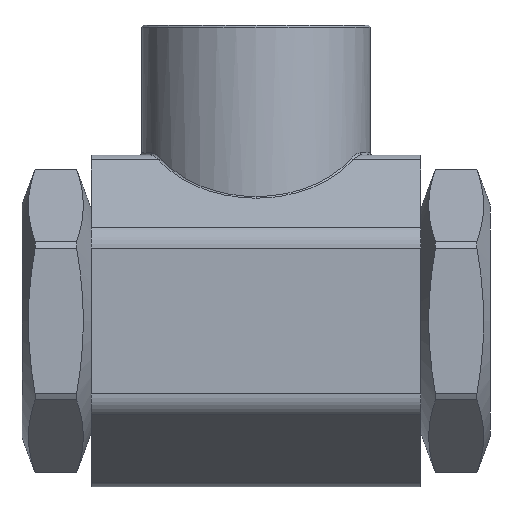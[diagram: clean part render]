
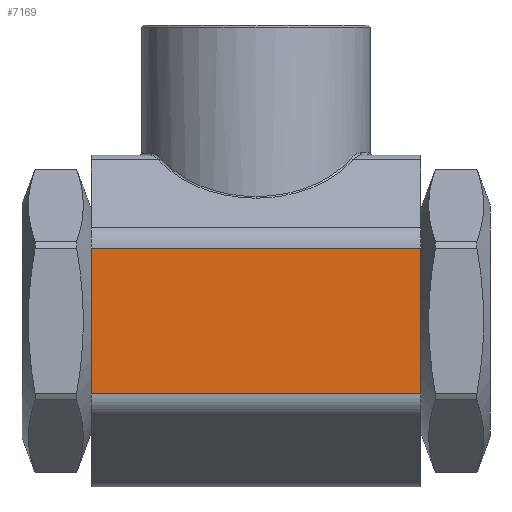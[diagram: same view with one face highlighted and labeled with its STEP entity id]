
A CAD part, front view. The second image highlights one B-rep face of the part: STEP entity #7169.
In plain terms, the highlighted planar face has unit normal (0, -1, 0).
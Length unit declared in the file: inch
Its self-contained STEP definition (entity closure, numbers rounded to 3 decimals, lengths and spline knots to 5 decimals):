
#180 = LINE ( 'NONE', #8532, #11236 ) ;
#741 = DIRECTION ( 'NONE',  ( 0., 0., -1. ) ) ;
#754 = EDGE_LOOP ( 'NONE', ( #2993, #1060, #9261, #11628 ) ) ;
#1060 = ORIENTED_EDGE ( 'NONE', *, *, #13240, .F. ) ;
#1764 = LINE ( 'NONE', #5902, #1801 ) ;
#1801 = VECTOR ( 'NONE', #741, 39.37008 ) ;
#1829 = CARTESIAN_POINT ( 'NONE',  ( 1.62402, -1.63386, 0.71728 ) ) ;
#2016 = EDGE_CURVE ( 'NONE', #3233, #13124, #180, .T. ) ;
#2993 = ORIENTED_EDGE ( 'NONE', *, *, #2016, .T. ) ;
#3207 = CARTESIAN_POINT ( 'NONE',  ( -1.62402, -1.63386, 0.71728 ) ) ;
#3233 = VERTEX_POINT ( 'NONE', #3207 ) ;
#3250 = LINE ( 'NONE', #3387, #12901 ) ;
#3387 = CARTESIAN_POINT ( 'NONE',  ( 1.62402, -1.63386, 0.71728 ) ) ;
#3594 = VECTOR ( 'NONE', #5628, 39.37008 ) ;
#4944 = EDGE_CURVE ( 'NONE', #12356, #9702, #1764, .T. ) ;
#5109 = DIRECTION ( 'NONE',  ( 0., 1., 0. ) ) ;
#5628 = DIRECTION ( 'NONE',  ( -1., 0., 0. ) ) ;
#5902 = CARTESIAN_POINT ( 'NONE',  ( 1.62402, -1.63386, -0.71728 ) ) ;
#7169 = ADVANCED_FACE ( 'NONE', ( #11345 ), #9055, .F. ) ;
#7388 = DIRECTION ( 'NONE',  ( -1., 0., 0. ) ) ;
#8462 = DIRECTION ( 'NONE',  ( 0., 0., -1. ) ) ;
#8532 = CARTESIAN_POINT ( 'NONE',  ( -1.62402, -1.63386, -0.71728 ) ) ;
#9020 = AXIS2_PLACEMENT_3D ( 'NONE', #13191, #5109, #9186 ) ;
#9055 = PLANE ( 'NONE',  #9020 ) ;
#9186 = DIRECTION ( 'NONE',  ( 0., 0., 1. ) ) ;
#9261 = ORIENTED_EDGE ( 'NONE', *, *, #4944, .F. ) ;
#9702 = VERTEX_POINT ( 'NONE', #12346 ) ;
#10322 = CARTESIAN_POINT ( 'NONE',  ( -1.62402, -1.63386, -0.71728 ) ) ;
#10597 = LINE ( 'NONE', #12628, #3594 ) ;
#11041 = EDGE_CURVE ( 'NONE', #12356, #3233, #3250, .T. ) ;
#11236 = VECTOR ( 'NONE', #8462, 39.37008 ) ;
#11345 = FACE_OUTER_BOUND ( 'NONE', #754, .T. ) ;
#11628 = ORIENTED_EDGE ( 'NONE', *, *, #11041, .T. ) ;
#12346 = CARTESIAN_POINT ( 'NONE',  ( 1.62402, -1.63386, -0.71728 ) ) ;
#12356 = VERTEX_POINT ( 'NONE', #1829 ) ;
#12628 = CARTESIAN_POINT ( 'NONE',  ( 1.62402, -1.63386, -0.71728 ) ) ;
#12901 = VECTOR ( 'NONE', #7388, 39.37008 ) ;
#13124 = VERTEX_POINT ( 'NONE', #10322 ) ;
#13191 = CARTESIAN_POINT ( 'NONE',  ( 1.62402, -1.63386, -0.71728 ) ) ;
#13240 = EDGE_CURVE ( 'NONE', #9702, #13124, #10597, .T. ) ;
